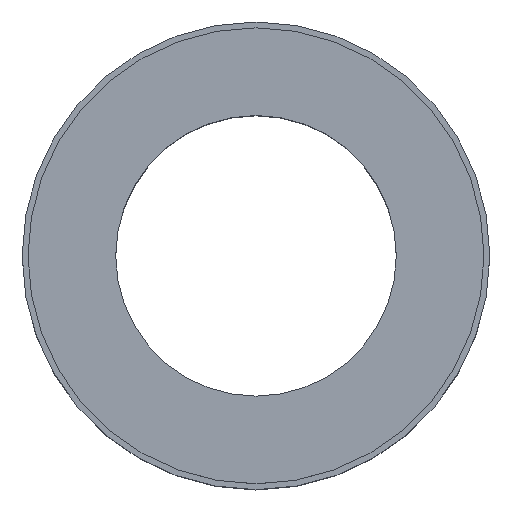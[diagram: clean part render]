
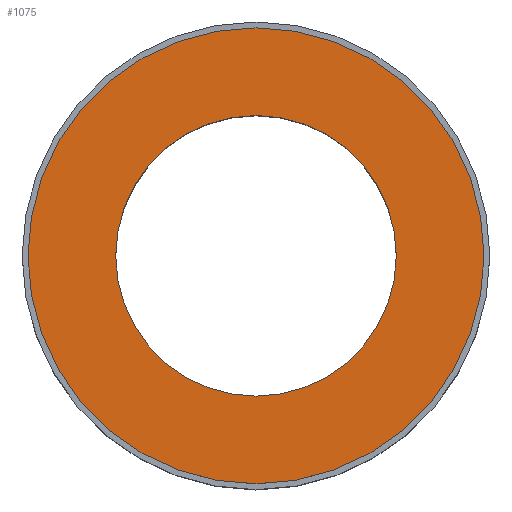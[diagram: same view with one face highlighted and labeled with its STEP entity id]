
A CAD part, top view. The second image highlights one B-rep face of the part: STEP entity #1075.
In plain terms, the highlighted planar face has unit normal (0, 0, 1).
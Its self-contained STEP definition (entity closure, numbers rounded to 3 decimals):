
#92 = EDGE_CURVE ( 'NONE', #2441, #1856, #2059, .T. ) ;
#131 = CARTESIAN_POINT ( 'NONE',  ( 0., 0., 18. ) ) ;
#169 = CARTESIAN_POINT ( 'NONE',  ( 0., 0., 18. ) ) ;
#178 = ORIENTED_EDGE ( 'NONE', *, *, #2403, .T. ) ;
#357 = DIRECTION ( 'NONE',  ( -1., 0., 0. ) ) ;
#412 = CARTESIAN_POINT ( 'NONE',  ( -24., 0., 18. ) ) ;
#430 = CARTESIAN_POINT ( 'NONE',  ( 0., 0., 18. ) ) ;
#498 = DIRECTION ( 'NONE',  ( -1., 0., 0. ) ) ;
#570 = ORIENTED_EDGE ( 'NONE', *, *, #92, .T. ) ;
#635 = CARTESIAN_POINT ( 'NONE',  ( 39., 0., 18. ) ) ;
#855 = DIRECTION ( 'NONE',  ( 1., 0., 0. ) ) ;
#867 = EDGE_CURVE ( 'NONE', #1856, #2441, #2063, .T. ) ;
#876 = CARTESIAN_POINT ( 'NONE',  ( 0., 0., 18. ) ) ;
#960 = AXIS2_PLACEMENT_3D ( 'NONE', #131, #1102, #357 ) ;
#1075 = ADVANCED_FACE ( 'NONE', ( #1720, #1243 ), #2628, .T. ) ;
#1102 = DIRECTION ( 'NONE',  ( 0., 0., -1. ) ) ;
#1218 = CARTESIAN_POINT ( 'NONE',  ( -24., 0., 18. ) ) ;
#1243 = FACE_OUTER_BOUND ( 'NONE', #1682, .T. ) ;
#1288 = ORIENTED_EDGE ( 'NONE', *, *, #867, .T. ) ;
#1405 = AXIS2_PLACEMENT_3D ( 'NONE', #876, #1853, #855 ) ;
#1507 = ORIENTED_EDGE ( 'NONE', *, *, #2249, .T. ) ;
#1515 = VERTEX_POINT ( 'NONE', #635 ) ;
#1546 = AXIS2_PLACEMENT_3D ( 'NONE', #412, #2681, #3118 ) ;
#1682 = EDGE_LOOP ( 'NONE', ( #178, #1507 ) ) ;
#1720 = FACE_BOUND ( 'NONE', #2995, .T. ) ;
#1853 = DIRECTION ( 'NONE',  ( 0., 0., 1. ) ) ;
#1856 = VERTEX_POINT ( 'NONE', #2056 ) ;
#2056 = CARTESIAN_POINT ( 'NONE',  ( 24., 0., 18. ) ) ;
#2059 = CIRCLE ( 'NONE', #2595, 24. ) ;
#2063 = CIRCLE ( 'NONE', #960, 24. ) ;
#2124 = CIRCLE ( 'NONE', #1405, 39. ) ;
#2249 = EDGE_CURVE ( 'NONE', #2262, #1515, #2124, .T. ) ;
#2262 = VERTEX_POINT ( 'NONE', #3041 ) ;
#2280 = AXIS2_PLACEMENT_3D ( 'NONE', #430, #2371, #2865 ) ;
#2371 = DIRECTION ( 'NONE',  ( 0., 0., 1. ) ) ;
#2403 = EDGE_CURVE ( 'NONE', #1515, #2262, #2417, .T. ) ;
#2417 = CIRCLE ( 'NONE', #2280, 39. ) ;
#2441 = VERTEX_POINT ( 'NONE', #1218 ) ;
#2595 = AXIS2_PLACEMENT_3D ( 'NONE', #169, #2677, #498 ) ;
#2628 = PLANE ( 'NONE',  #1546 ) ;
#2677 = DIRECTION ( 'NONE',  ( 0., 0., -1. ) ) ;
#2681 = DIRECTION ( 'NONE',  ( 0., 0., 1. ) ) ;
#2865 = DIRECTION ( 'NONE',  ( 1., 0., 0. ) ) ;
#2995 = EDGE_LOOP ( 'NONE', ( #570, #1288 ) ) ;
#3041 = CARTESIAN_POINT ( 'NONE',  ( -39., 0., 18. ) ) ;
#3118 = DIRECTION ( 'NONE',  ( 1., 0., 0. ) ) ;
